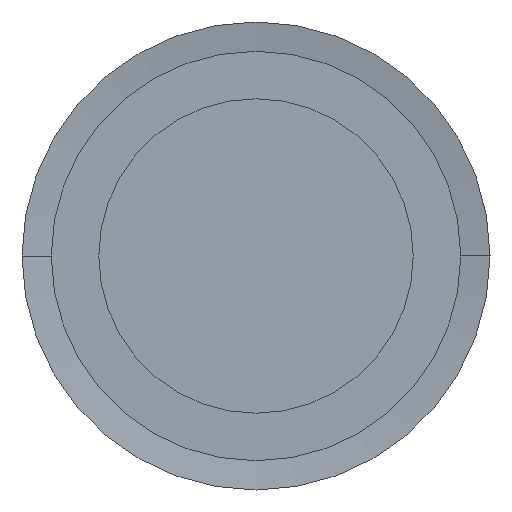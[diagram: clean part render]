
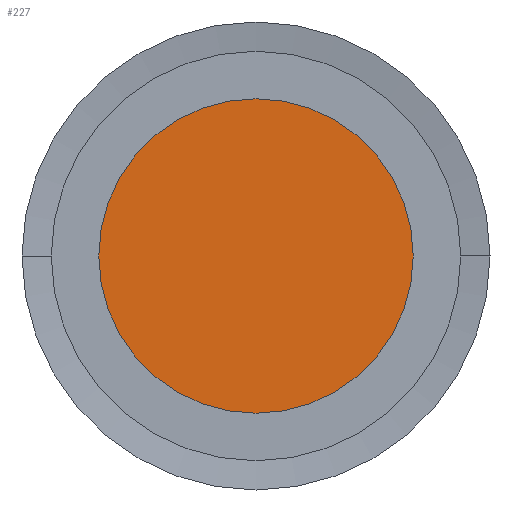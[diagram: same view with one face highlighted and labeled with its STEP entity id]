
A CAD part, left-side view. The second image highlights one B-rep face of the part: STEP entity #227.
In plain terms, the highlighted planar face has unit normal (-1, 0, 0).
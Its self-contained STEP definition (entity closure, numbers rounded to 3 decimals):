
#227 = ADVANCED_FACE( '', ( #538 ), #539, .T. );
#538 = FACE_OUTER_BOUND( '', #849, .T. );
#539 = PLANE( '', #850 );
#849 = EDGE_LOOP( '', ( #2165, #2166 ) );
#850 = AXIS2_PLACEMENT_3D( '', #2167, #2168, #2169 );
#2165 = ORIENTED_EDGE( '', *, *, #2173, .T. );
#2166 = ORIENTED_EDGE( '', *, *, #2599, .T. );
#2167 = CARTESIAN_POINT( '', ( 0., 5.375, 0. ) );
#2168 = DIRECTION( '', ( -1., 0., 0. ) );
#2169 = DIRECTION( '', ( 0., 1., 0. ) );
#2173 = EDGE_CURVE( '', #2601, #2605, #2607, .T. );
#2599 = EDGE_CURVE( '', #2605, #2601, #3313, .T. );
#2601 = VERTEX_POINT( '', #3315 );
#2605 = VERTEX_POINT( '', #3320 );
#2607 = CIRCLE( '', #3323, 10.75 );
#3313 = CIRCLE( '', #4269, 10.75 );
#3315 = CARTESIAN_POINT( '', ( 0., 10.75, 0. ) );
#3320 = CARTESIAN_POINT( '', ( 0., -10.75, 0. ) );
#3323 = AXIS2_PLACEMENT_3D( '', #4275, #4276, #4277 );
#4269 = AXIS2_PLACEMENT_3D( '', #5073, #5074, #5075 );
#4275 = CARTESIAN_POINT( '', ( 0., 0., 0. ) );
#4276 = DIRECTION( '', ( -1., 0., 0. ) );
#4277 = DIRECTION( '', ( 0., 1., 0. ) );
#5073 = CARTESIAN_POINT( '', ( 0., 0., 0. ) );
#5074 = DIRECTION( '', ( -1., 0., 0. ) );
#5075 = DIRECTION( '', ( 0., 1., 0. ) );
